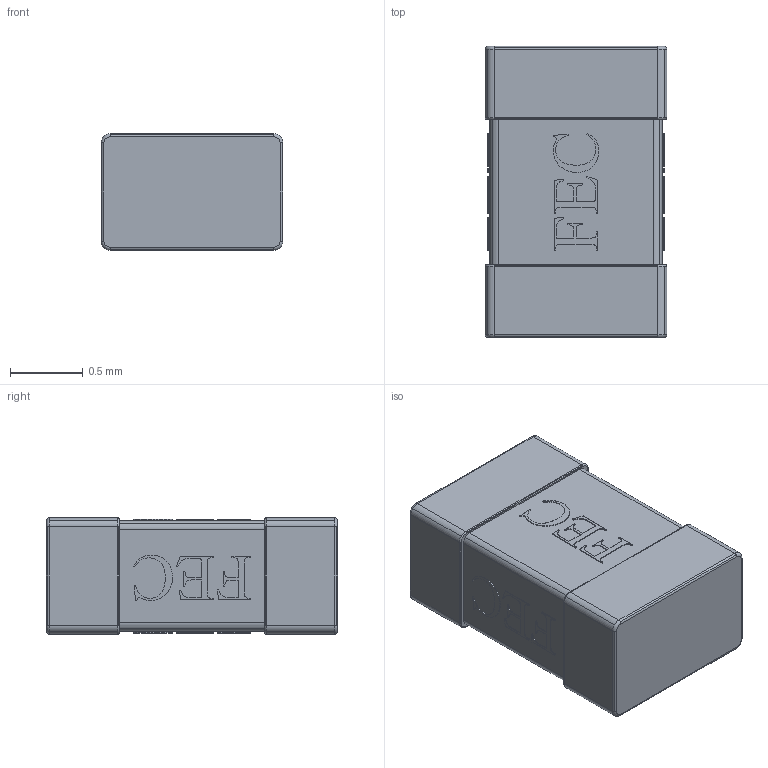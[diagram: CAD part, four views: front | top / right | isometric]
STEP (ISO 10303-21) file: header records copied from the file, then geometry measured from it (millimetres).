
FILE_DESCRIPTION(('STEP AP214'),'1');
FILE_NAME('tmp0.step','2023-08-07T00:51:38',(' '),(' '),'Spatial InterOp 3D',' ',' ');
FILE_SCHEMA(('AUTOMOTIVE_DESIGN { 1 0 10303 214 1 1 1 1 }'));
Length unit declared in the file: millimetre
Products named in the file (1): 1
Bounding box: 1.25 x 2 x 0.8 mm (x, y, z)
Volume: 1.9 mm3; surface area: 14.1 mm2
Topology: 15 solids, 15 shells, 1102 faces, 3184 edges, 2112 vertices
Faces by surface type: plane 1030, cylinder 56, torus 16
Entity records: 35714 total; most frequent: CARTESIAN_POINT 6413, ORIENTED_EDGE 6368, DIRECTION 5546, EDGE_CURVE 3184, LINE 3056, VECTOR 3056, VERTEX_POINT 2112, AXIS2_PLACEMENT_3D 1245
